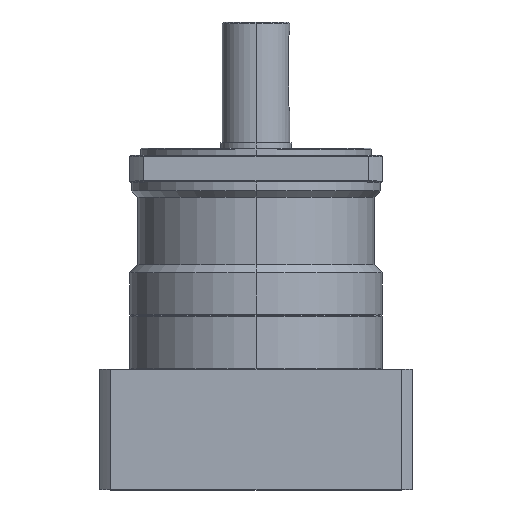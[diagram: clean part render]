
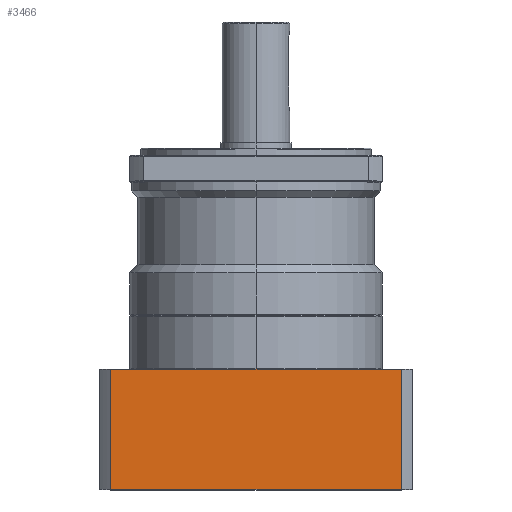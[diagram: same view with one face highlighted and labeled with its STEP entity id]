
A CAD part, top view. The second image highlights one B-rep face of the part: STEP entity #3466.
In plain terms, the highlighted planar face has unit normal (0, 0, 1).
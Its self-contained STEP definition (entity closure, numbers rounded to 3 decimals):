
#116 = EDGE_CURVE ( 'NONE', #4084, #4064, #4558, .T. ) ;
#117 = EDGE_CURVE ( 'NONE', #4069, #4084, #4566, .T. ) ;
#118 = EDGE_CURVE ( 'NONE', #4073, #4069, #4568, .T. ) ;
#119 = EDGE_CURVE ( 'NONE', #4073, #4064, #4570, .T. ) ;
#603 = CARTESIAN_POINT ( 'NONE',  ( -81.584, -114., 88. ) ) ;
#615 = DIRECTION ( 'NONE',  ( 0., 1., 0. ) ) ;
#616 = CARTESIAN_POINT ( 'NONE',  ( 88., -98., 88. ) ) ;
#617 = DIRECTION ( 'NONE',  ( -1., 0., 0. ) ) ;
#618 = CARTESIAN_POINT ( 'NONE',  ( 81.584, -114., 88. ) ) ;
#619 = DIRECTION ( 'NONE',  ( 0., -1., 0. ) ) ;
#620 = CARTESIAN_POINT ( 'NONE',  ( 88., -30.5, 88. ) ) ;
#621 = DIRECTION ( 'NONE',  ( -1., 0., 0. ) ) ;
#1284 = CARTESIAN_POINT ( 'NONE',  ( 88., -98., 88. ) ) ;
#1287 = PLANE ( 'NONE',  #1498 ) ;
#1289 = DIRECTION ( 'NONE',  ( 0., 0., -1. ) ) ;
#1290 = DIRECTION ( 'NONE',  ( -1., 0., 0. ) ) ;
#1498 = AXIS2_PLACEMENT_3D ( 'NONE', #1284, #1289, #1290 ) ;
#2634 = CARTESIAN_POINT ( 'NONE',  ( -81.584, -30.5, 88. ) ) ;
#2639 = CARTESIAN_POINT ( 'NONE',  ( 81.584, -98., 88. ) ) ;
#2643 = CARTESIAN_POINT ( 'NONE',  ( 81.584, -30.5, 88. ) ) ;
#2654 = CARTESIAN_POINT ( 'NONE',  ( -81.584, -98., 88. ) ) ;
#3466 = ADVANCED_FACE ( 'NONE', ( #4873 ), #1287, .F. ) ;
#3802 = ORIENTED_EDGE ( 'NONE', *, *, #116, .F. ) ;
#3803 = ORIENTED_EDGE ( 'NONE', *, *, #117, .F. ) ;
#3804 = ORIENTED_EDGE ( 'NONE', *, *, #118, .F. ) ;
#3805 = ORIENTED_EDGE ( 'NONE', *, *, #119, .T. ) ;
#4064 = VERTEX_POINT ( 'NONE', #2634 ) ;
#4069 = VERTEX_POINT ( 'NONE', #2639 ) ;
#4073 = VERTEX_POINT ( 'NONE', #2643 ) ;
#4084 = VERTEX_POINT ( 'NONE', #2654 ) ;
#4367 = EDGE_LOOP ( 'NONE', ( #3802, #3803, #3804, #3805 ) ) ;
#4558 = LINE ( 'NONE', #603, #4567 ) ;
#4566 = LINE ( 'NONE', #616, #4569 ) ;
#4567 = VECTOR ( 'NONE', #615, 1000. ) ;
#4568 = LINE ( 'NONE', #618, #4571 ) ;
#4569 = VECTOR ( 'NONE', #617, 1000. ) ;
#4570 = LINE ( 'NONE', #620, #4573 ) ;
#4571 = VECTOR ( 'NONE', #619, 1000. ) ;
#4573 = VECTOR ( 'NONE', #621, 1000. ) ;
#4873 = FACE_OUTER_BOUND ( 'NONE', #4367, .T. ) ;
